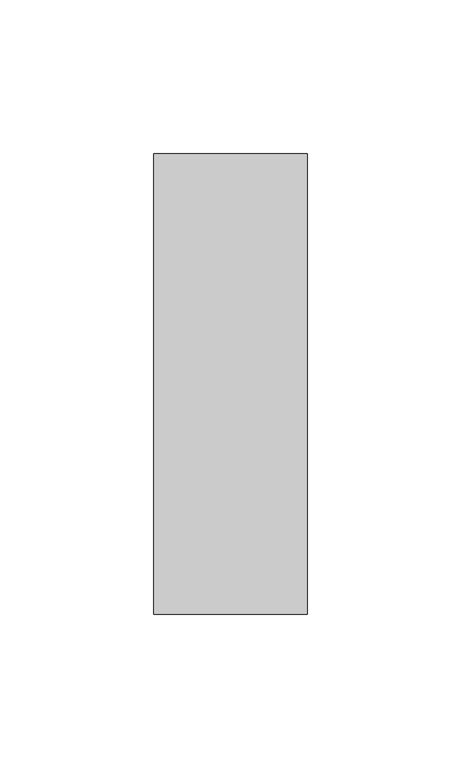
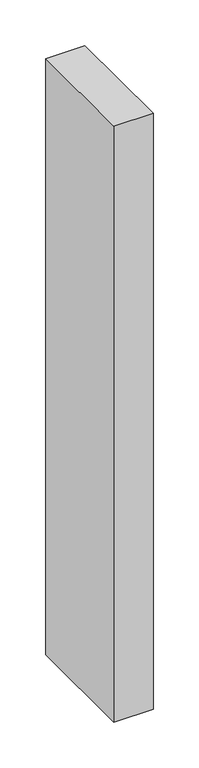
"""IFC4 building model written with IfcOpenShell, lengths in millimetres: member geometry, Прямоугольный импост : 50х150мм."""

from ifc_helpers import new_model, si_unit, frame, origin, place, context, project, spatial, polyline, outline, extrude, source, transform, mapped, element, save


def member_cbae6808(model_context):
    return source(origin(), model_context, "Body", "SweptSolid", [
        extrude(outline(polyline([(0.0, 75.0), (0.0, -75.0), (-50.0, -75.0), (-50.0, 75.0), (0.0, 75.0)])), frame((0.0, 0.0, -798.8948055), z_axis=(0.0, 0.0, 1.0), x_axis=(1.0, 0.0, 0.0)), (0.0, 0.0, 1.0), 798.8948055),
    ])


if __name__ == "__main__":
    model = new_model("IFC4")
    model_context = context("Model", 3, world=origin())
    ifc_project = project(units=[si_unit("LENGTHUNIT", "METRE", prefix="MILLI")], contexts=[model_context])
    site = spatial("IfcSite", under=ifc_project)
    building = spatial("IfcBuilding", under=site)
    placement = place(None, origin())
    member_shape = member_cbae6808(model_context)
    element("IfcMember", 1, ObjectType="Прямоугольный импост : 50х150мм", at=placement, inside=building, context=model_context, shape_type="MappedRepresentation", body=[
        mapped(member_shape, transform((0.0, 0.0, 0.0), x_axis=(1.0, 0.0, 0.0), y_axis=(0.0, 1.0, 0.0), z_axis=(0.0, 0.0, 1.0))),
    ])
    save(model, "model.ifc")
